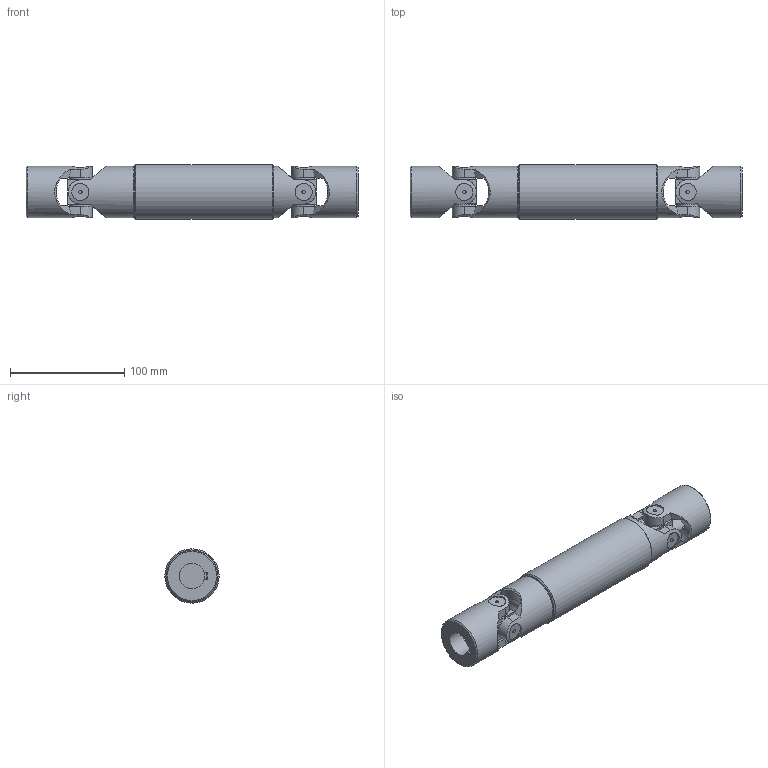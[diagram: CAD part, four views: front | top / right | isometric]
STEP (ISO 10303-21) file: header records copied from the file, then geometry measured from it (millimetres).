
FILE_DESCRIPTION(/* description */ (''),/* implementation_level */ '2;1');
FILE_NAME(/* name */ '\\SRV2016\Societa\Stefano\Disegni 3D\00Catalogo 3D\03Trasmissioni standard GA\4GA15\4GA15_SG0A2215.stp',/* time_stamp */ '2022-03-15T15:42:14+01:00',/* author */ ('acquisti'),/* organization */ (''),/* preprocessor_version */ 'ST-DEVELOPER v15.6',/* originating_system */ 'Autodesk Inventor 2015',/* authorisation */ '');
FILE_SCHEMA (('AUTOMOTIVE_DESIGN { 1 0 10303 214 3 1 1 }'));
Length unit declared in the file: millimetre
Products named in the file (5): 4G MOC; 4GA SFE; 4GA15 LCI; 4GA15 LAI; 4GA15_SG0A2215
Assembly tree (6 placements, depth 2):
  4GA15_SG0A2215
    4G MOC  x2
    4GA SFE  x2
    4GA15 LCI
    4GA15 LAI
Bounding box: 290 x 47.5 x 47.5 mm (x, y, z)
Volume: 351850.7 mm3; surface area: 90092.2 mm2
Topology: 6 solids, 6 shells, 204 faces, 513 edges, 345 vertices
Faces by surface type: plane 106, cylinder 69, cone 25, torus 4
Full cylindrical faces by diameter (mm): 3 x8, 15 x8, 19 x8, 22 x1, 23 x2, 39 x1, 45 x4, 47.5 x1
Entity records: 5283 total; most frequent: CARTESIAN_POINT 1527, DIRECTION 751, ORIENTED_EDGE 736, EDGE_CURVE 368, AXIS2_PLACEMENT_3D 299, VERTEX_POINT 268, EDGE_LOOP 212, FACE_OUTER_BOUND 158
